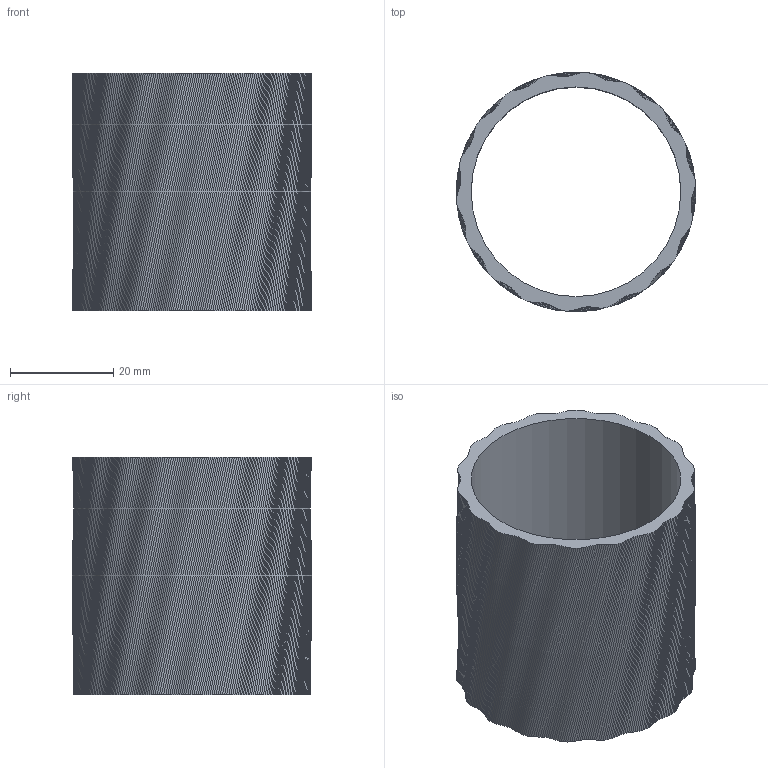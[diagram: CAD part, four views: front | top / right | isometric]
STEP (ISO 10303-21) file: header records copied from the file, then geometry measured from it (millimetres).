
FILE_DESCRIPTION(('Open CASCADE Model'),'2;1');
FILE_NAME('Open CASCADE Shape Model','2026-10-15T23:05:05',('Author'),( 'Open CASCADE'),'Open CASCADE STEP processor 7.9','Open CASCADE 7.9' ,'Unknown');
FILE_SCHEMA(('AUTOMOTIVE_DESIGN { 1 0 10303 214 1 1 1 1 }'));
Length unit declared in the file: millimetre
Products named in the file (1): Open CASCADE STEP translator 7.9 6
Bounding box: 46.4 x 46.39 x 46 mm (x, y, z)
Volume: 15578.5 mm3; surface area: 13301.7 mm2
Topology: 1 solids, 1 shells, 363 faces, 1083 edges, 722 vertices
Faces by surface type: bspline 360, plane 2, cylinder 1
Full cylindrical faces by diameter (mm): 40.6 x1
Entity records: 27118 total; most frequent: CARTESIAN_POINT 10827, ORIENTED_EDGE 2166, PCURVE 2166, DEFINITIONAL_REPRESENTATION 2166, B_SPLINE_CURVE_WITH_KNOTS 2160, DIRECTION 1097, LINE 1085, VECTOR 1085
